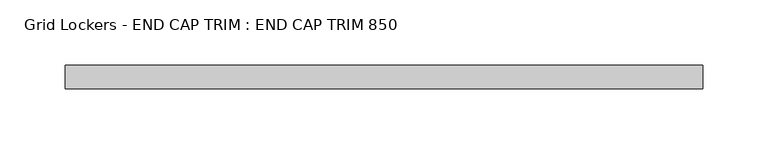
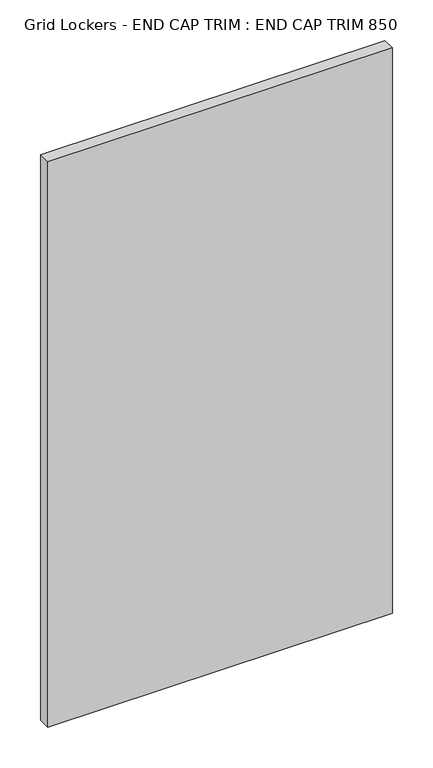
"""IFC4 building model written with IfcOpenShell, lengths in millimetres: furniture geometry, Grid Lockers - END CAP TRIM : END CAP TRIM 850."""

from ifc_helpers import new_model, si_unit, origin, origin_with_axes, place, context, project, spatial, polyline, outline, extrude, source, transform, mapped, element, save


def grid_lockers_end_cap_trim_end_cap_trim_850_47c9209e(model_context):
    return source(origin(), model_context, "Body", "SweptSolid", [
        extrude(outline(polyline([(490.0, -18.0), (0.0, -18.0), (0.0, 0.0), (490.0, 0.0), (490.0, -18.0)])), origin_with_axes(), (0.0, 0.0, 1.0), 850.0),
    ])


if __name__ == "__main__":
    model = new_model("IFC4")
    model_context = context("Model", 3, world=origin())
    ifc_project = project(units=[si_unit("LENGTHUNIT", "METRE", prefix="MILLI")], contexts=[model_context])
    site = spatial("IfcSite", under=ifc_project)
    building = spatial("IfcBuilding", under=site)
    placement = place(None, origin())
    grid_lockers_end_cap_trim_end_cap_trim_850_shape = grid_lockers_end_cap_trim_end_cap_trim_850_47c9209e(model_context)
    element("IfcFurniture", 1, ObjectType="Grid Lockers - END CAP TRIM : END CAP TRIM 850", at=placement, inside=building, context=model_context, shape_type="MappedRepresentation", body=[
        mapped(grid_lockers_end_cap_trim_end_cap_trim_850_shape, transform((0.0, 0.0, 0.0), x_axis=(1.0, 0.0, 0.0), y_axis=(0.0, 1.0, 0.0), z_axis=(0.0, 0.0, 1.0))),
    ])
    save(model, "model.ifc")
